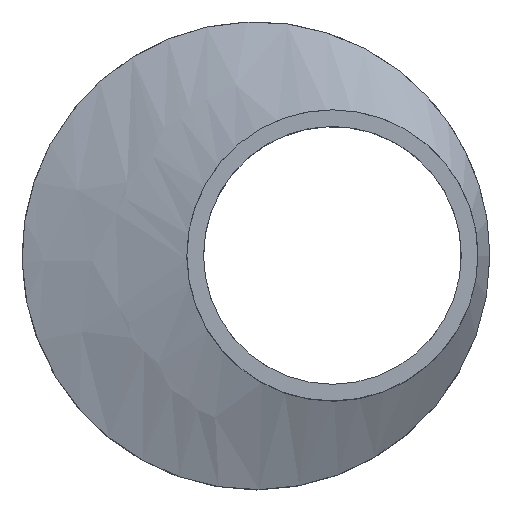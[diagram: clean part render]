
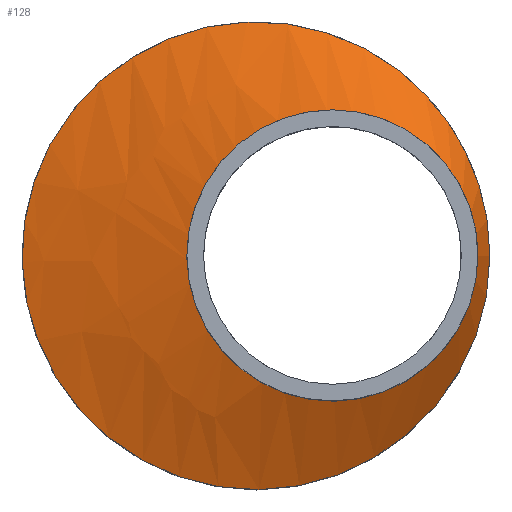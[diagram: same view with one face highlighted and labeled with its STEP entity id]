
A CAD part, top view. The second image highlights one B-rep face of the part: STEP entity #128.
In plain terms, the highlighted free-form (B-spline) face has degree [1, 2] with [2, 9] control points.
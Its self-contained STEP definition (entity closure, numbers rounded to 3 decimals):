
#29=FACE_OUTER_BOUND($,#37,.T.);
#37=EDGE_LOOP($,(#98,#99,#100,#101,#102,#103));
#47=B_SPLINE_CURVE_WITH_KNOTS($,1,(#250,#251),.UNSPECIFIED.,.F.,.F.,(2,
2),(-0.45,0.),.UNSPECIFIED.);
#54=CIRCLE($,#144,28.);
#55=CIRCLE($,#145,28.);
#56=CIRCLE($,#146,45.);
#57=CIRCLE($,#147,45.);
#66=VERTEX_POINT($,#245);
#67=VERTEX_POINT($,#246);
#68=VERTEX_POINT($,#249);
#69=VERTEX_POINT($,#252);
#79=EDGE_CURVE($,#66,#67,#54,.T.);
#80=EDGE_CURVE($,#67,#66,#55,.T.);
#81=EDGE_CURVE($,#67,#68,#47,.T.);
#82=EDGE_CURVE($,#69,#68,#56,.T.);
#83=EDGE_CURVE($,#68,#69,#57,.T.);
#98=ORIENTED_EDGE($,*,*,#79,.F.);
#99=ORIENTED_EDGE($,*,*,#80,.F.);
#100=ORIENTED_EDGE($,*,*,#81,.T.);
#101=ORIENTED_EDGE($,*,*,#82,.F.);
#102=ORIENTED_EDGE($,*,*,#83,.F.);
#103=ORIENTED_EDGE($,*,*,#81,.F.);
#115=(
BOUNDED_SURFACE()
B_SPLINE_SURFACE(1,2,((#227,#228,#229,#230,#231,#232,#233,#234,#235),(#236,
#237,#238,#239,#240,#241,#242,#243,#244)),.UNSPECIFIED.,.F.,.T.,.F.)
B_SPLINE_SURFACE_WITH_KNOTS((2,2),(3,2,2,2,3),(-1.87,0.731),
(-3.142,-1.571,0.,1.571,3.142),
 .UNSPECIFIED.)
GEOMETRIC_REPRESENTATION_ITEM()
RATIONAL_B_SPLINE_SURFACE(((1.,0.707,1.,0.707,1.,
0.707,1.,0.707,1.),(1.,0.707,1.,0.707,
1.,0.707,1.,0.707,1.)))
REPRESENTATION_ITEM($)
SURFACE()
);
#128=ADVANCED_FACE($,(#29),#115,.F.);
#144=AXIS2_PLACEMENT_3D($,#247,#172,#173);
#145=AXIS2_PLACEMENT_3D($,#248,#174,#175);
#146=AXIS2_PLACEMENT_3D($,#253,#176,#177);
#147=AXIS2_PLACEMENT_3D($,#254,#178,#179);
#172=DIRECTION('center_axis',(0.,0.,1.));
#173=DIRECTION('ref_axis',(-1.,0.,0.));
#174=DIRECTION('center_axis',(0.,0.,1.));
#175=DIRECTION('ref_axis',(-1.,0.,0.));
#176=DIRECTION('center_axis',(0.,0.,-1.));
#177=DIRECTION('ref_axis',(-1.,0.,0.));
#178=DIRECTION('center_axis',(0.,0.,-1.));
#179=DIRECTION('ref_axis',(-1.,0.,0.));
#227=CARTESIAN_POINT('Ctrl Pts',(9.277,91.724,3.856));
#228=CARTESIAN_POINT('Ctrl Pts',(-45.503,91.724,35.279));
#229=CARTESIAN_POINT('Ctrl Pts',(-45.503,0.,
35.279));
#230=CARTESIAN_POINT('Ctrl Pts',(-45.503,-91.724,35.279));
#231=CARTESIAN_POINT('Ctrl Pts',(9.277,-91.724,3.856));
#232=CARTESIAN_POINT('Ctrl Pts',(64.056,-91.724,-27.568));
#233=CARTESIAN_POINT('Ctrl Pts',(64.056,0.,
-27.568));
#234=CARTESIAN_POINT('Ctrl Pts',(64.056,91.724,-27.568));
#235=CARTESIAN_POINT('Ctrl Pts',(9.277,91.724,3.856));
#236=CARTESIAN_POINT('Ctrl Pts',(34.447,13.819,47.734));
#237=CARTESIAN_POINT('Ctrl Pts',(26.194,13.819,52.469));
#238=CARTESIAN_POINT('Ctrl Pts',(26.194,0.,52.469));
#239=CARTESIAN_POINT('Ctrl Pts',(26.194,-13.819,52.469));
#240=CARTESIAN_POINT('Ctrl Pts',(34.447,-13.819,47.734));
#241=CARTESIAN_POINT('Ctrl Pts',(42.7,-13.819,43.));
#242=CARTESIAN_POINT('Ctrl Pts',(42.7,0.,43.));
#243=CARTESIAN_POINT('Ctrl Pts',(42.7,13.819,43.));
#244=CARTESIAN_POINT('Ctrl Pts',(34.447,13.819,47.734));
#245=CARTESIAN_POINT('',(42.7,0.,43.));
#246=CARTESIAN_POINT('',(31.731,22.225,43.));
#247=CARTESIAN_POINT('Origin',(14.7,0.,43.));
#248=CARTESIAN_POINT('Origin',(14.7,0.,43.));
#249=CARTESIAN_POINT('',(27.372,35.718,35.4));
#250=CARTESIAN_POINT('Ctrl Pts',(31.731,22.225,43.));
#251=CARTESIAN_POINT('Ctrl Pts',(27.372,35.718,35.4));
#252=CARTESIAN_POINT('',(45.,0.,35.4));
#253=CARTESIAN_POINT('Origin',(0.,0.,35.4));
#254=CARTESIAN_POINT('Origin',(0.,0.,35.4));
